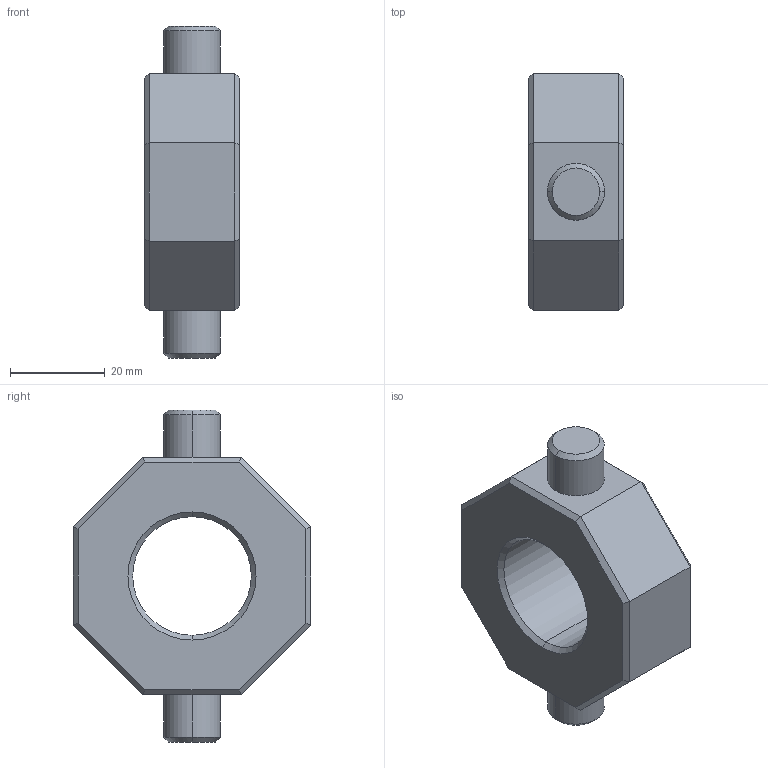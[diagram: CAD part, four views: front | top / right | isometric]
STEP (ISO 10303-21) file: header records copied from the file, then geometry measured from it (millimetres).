
FILE_DESCRIPTION (( 'STEP AP214' ), '1' );
FILE_NAME ('LB-KA-25.STEP', '2025-04-08T06:22:11', ( '' ), ( '' ), 'SwSTEP 2.0', 'SolidWorks 2023', '' );
FILE_SCHEMA (( 'AUTOMOTIVE_DESIGN' ));
Length unit declared in the file: millimetre
Products named in the file (1): LB-KA-25
Bounding box: 20 x 50 x 70 mm (x, y, z)
Volume: 32380.3 mm3; surface area: 9569.8 mm2
Topology: 1 solids, 1 shells, 78 faces, 174 edges, 94 vertices
Faces by surface type: cone 32, plane 28, cylinder 18
Entity records: 2053 total; most frequent: DIRECTION 376, CARTESIAN_POINT 335, ORIENTED_EDGE 324, EDGE_CURVE 162, AXIS2_PLACEMENT_3D 135, LINE 106, VECTOR 106, VERTEX_POINT 94
